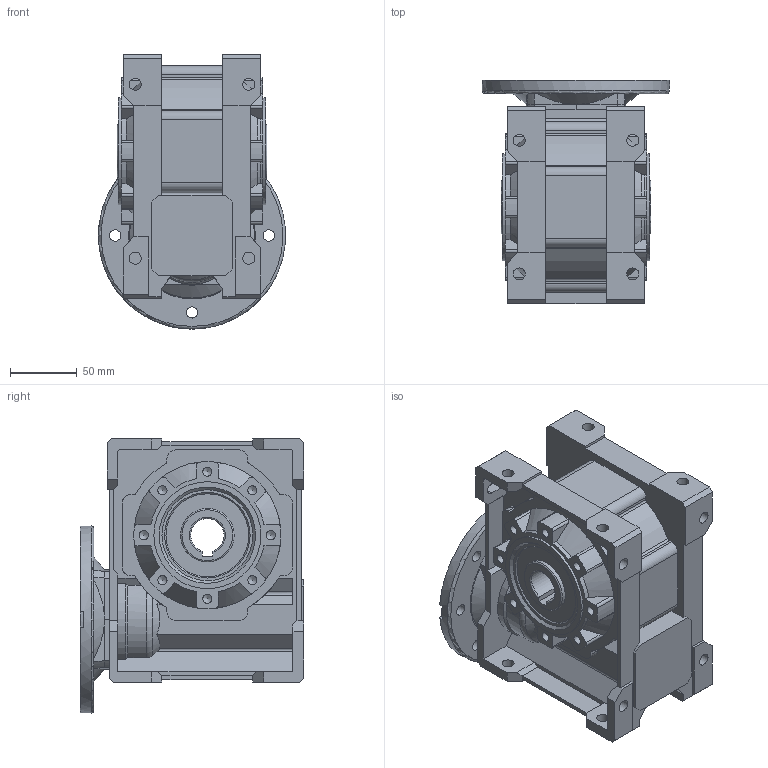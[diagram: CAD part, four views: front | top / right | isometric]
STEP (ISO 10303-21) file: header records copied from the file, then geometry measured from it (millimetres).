
FILE_DESCRIPTION( ( 'Unknown' ), '1' );
FILE_NAME( 'E:/services/configuratordownloads/customers/tramec/xh/download/48F12CD5E25FCD82C54F705A1F2BA883/STEP/48F12CD5E25FCD82C54F705A1F2BA883.3d.stp', 'Unknown', ( 'Unknown' ), ( 'Unknown' ), 'PSStep 10.1', 'Unknown', ' ' );
FILE_SCHEMA( ( 'AUTOMOTIVE_DESIGN { 1 0 10303 214 1 1 1 1 }' ) );
Length unit declared in the file: millimetre
Products named in the file (1): 1011625011
Bounding box: 139.94 x 167 x 205 mm (x, y, z)
Volume: 1415499.4 mm3; surface area: 304049.6 mm2
Topology: 1 solids, 4 shells, 745 faces, 2047 edges, 1328 vertices
Faces by surface type: plane 401, cylinder 214, cone 73, torus 57
Full cylindrical faces by diameter (mm): 0.1 x1, 6.8 x16, 8.5 x8, 9 x12, 35 x1, 40 x3, 55 x1, 62.01 x1, 68 x2, 80 x2, 93 x1, 95 x1, 103 x1, 105 x1, 109 x1, 140 x1
Entity records: 30926 total; most frequent: CARTESIAN_POINT 6685, ORIENTED_EDGE 3788, DIRECTION 3726, EDGE_CURVE 1894, AXIS2_PLACEMENT_3D 1383, VERTEX_POINT 1280, LINE 960, VECTOR 960
